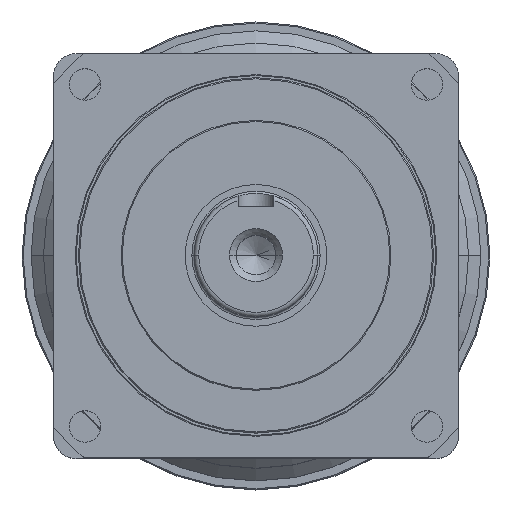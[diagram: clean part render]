
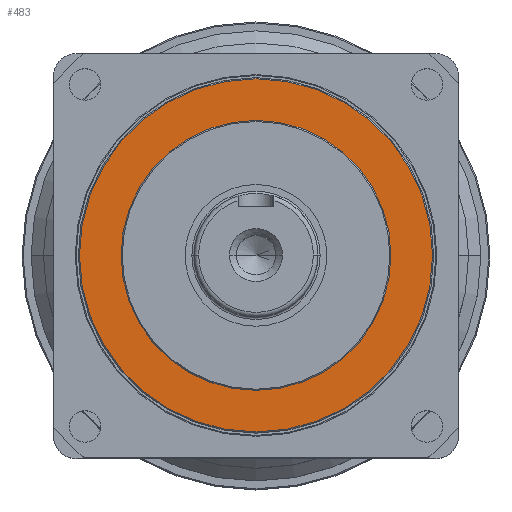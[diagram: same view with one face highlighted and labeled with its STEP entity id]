
A CAD part, top view. The second image highlights one B-rep face of the part: STEP entity #483.
In plain terms, the highlighted planar face has unit normal (0, 0, 1).
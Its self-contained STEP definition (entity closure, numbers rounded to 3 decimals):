
#159 = EDGE_LOOP ( 'NONE', ( #1897, #4563 ) ) ;
#483 = ADVANCED_FACE ( 'NONE', ( #2243, #2299 ), #5031, .T. ) ;
#493 = DIRECTION ( 'NONE',  ( 1., 0., 0. ) ) ;
#495 = CARTESIAN_POINT ( 'NONE',  ( 78.5, 0., 43. ) ) ;
#517 = CIRCLE ( 'NONE', #3360, 60. ) ;
#544 = CARTESIAN_POINT ( 'NONE',  ( 0., 0., 43. ) ) ;
#562 = DIRECTION ( 'NONE',  ( 0., 0., 1. ) ) ;
#727 = CARTESIAN_POINT ( 'NONE',  ( 0., 0., 43. ) ) ;
#907 = AXIS2_PLACEMENT_3D ( 'NONE', #2141, #562, #4855 ) ;
#996 = VERTEX_POINT ( 'NONE', #2770 ) ;
#1018 = VERTEX_POINT ( 'NONE', #3569 ) ;
#1291 = DIRECTION ( 'NONE',  ( 0., 0., 1. ) ) ;
#1828 = CIRCLE ( 'NONE', #3941, 60. ) ;
#1897 = ORIENTED_EDGE ( 'NONE', *, *, #3412, .F. ) ;
#2141 = CARTESIAN_POINT ( 'NONE',  ( 0., 0., 43. ) ) ;
#2186 = EDGE_CURVE ( 'NONE', #996, #1018, #517, .T. ) ;
#2243 = FACE_BOUND ( 'NONE', #159, .T. ) ;
#2299 = FACE_OUTER_BOUND ( 'NONE', #3526, .T. ) ;
#2388 = ORIENTED_EDGE ( 'NONE', *, *, #5013, .T. ) ;
#2770 = CARTESIAN_POINT ( 'NONE',  ( 60., 0., 43. ) ) ;
#2928 = EDGE_CURVE ( 'NONE', #3262, #3520, #3171, .T. ) ;
#3171 = CIRCLE ( 'NONE', #907, 78.5 ) ;
#3261 = CARTESIAN_POINT ( 'NONE',  ( 0., 0., 43. ) ) ;
#3262 = VERTEX_POINT ( 'NONE', #495 ) ;
#3360 = AXIS2_PLACEMENT_3D ( 'NONE', #3261, #3686, #493 ) ;
#3404 = ORIENTED_EDGE ( 'NONE', *, *, #2928, .T. ) ;
#3412 = EDGE_CURVE ( 'NONE', #1018, #996, #1828, .T. ) ;
#3520 = VERTEX_POINT ( 'NONE', #4733 ) ;
#3526 = EDGE_LOOP ( 'NONE', ( #2388, #3404 ) ) ;
#3569 = CARTESIAN_POINT ( 'NONE',  ( -60., 0., 43. ) ) ;
#3686 = DIRECTION ( 'NONE',  ( 0., 0., 1. ) ) ;
#3692 = DIRECTION ( 'NONE',  ( 1., 0., 0. ) ) ;
#3782 = CIRCLE ( 'NONE', #4206, 78.5 ) ;
#3842 = CARTESIAN_POINT ( 'NONE',  ( 0., 0., 43. ) ) ;
#3941 = AXIS2_PLACEMENT_3D ( 'NONE', #3842, #4597, #4242 ) ;
#4206 = AXIS2_PLACEMENT_3D ( 'NONE', #544, #1291, #3692 ) ;
#4242 = DIRECTION ( 'NONE',  ( 1., 0., 0. ) ) ;
#4563 = ORIENTED_EDGE ( 'NONE', *, *, #2186, .F. ) ;
#4597 = DIRECTION ( 'NONE',  ( 0., 0., 1. ) ) ;
#4665 = DIRECTION ( 'NONE',  ( 1., 0., 0. ) ) ;
#4683 = DIRECTION ( 'NONE',  ( 0., 0., 1. ) ) ;
#4733 = CARTESIAN_POINT ( 'NONE',  ( -78.5, 0., 43. ) ) ;
#4855 = DIRECTION ( 'NONE',  ( 1., 0., 0. ) ) ;
#5013 = EDGE_CURVE ( 'NONE', #3520, #3262, #3782, .T. ) ;
#5031 = PLANE ( 'NONE',  #5112 ) ;
#5112 = AXIS2_PLACEMENT_3D ( 'NONE', #727, #4683, #4665 ) ;
